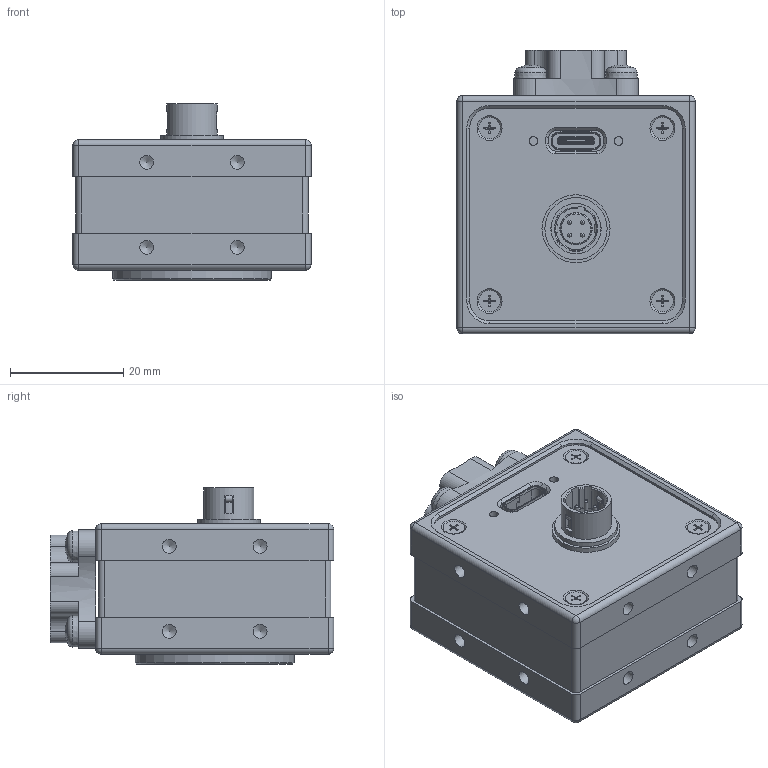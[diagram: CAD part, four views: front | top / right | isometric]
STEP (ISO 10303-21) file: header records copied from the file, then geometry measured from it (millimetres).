
FILE_DESCRIPTION(/* description */ (''),/* implementation_level */ '2;1');
FILE_NAME(/* name */ 'D:\HiDrive\1_Konstruktion\1_KUNDEN\TIS\243-17_MC42-Camera\243-17-1-00-00_MC42-USB3.1C-4PHirose\IPT und STEP Ableitungen für Kunden\243-17-11_(MC42_USB3.1C_4PHiro_CS-FP_13,3_ER-6,7).stp',/* time_stamp */ '2018-08-29T13:16:10+02:00',/* author */ ('khw'),/* organization */ (''),/* preprocessor_version */ 'ST-DEVELOPER v16.5',/* originating_system */ 'Autodesk Inventor 2017',/* authorisation */ '');
FILE_SCHEMA (('AUTOMOTIVE_DESIGN { 1 0 10303 214 3 1 1 }'));
Length unit declared in the file: millimetre
Products named in the file (4): 243-17-11_(MC42_USB3.1C_4PHiro_CS-FP_13,3_ER-6,7); 243-17-11_(MC42_USB3.1C_4PHiro_CS-FP_13,3_ER-6,7)_1; 154-13-1-00-03_Tripod Adapter; ISO 7045 - M3 x 6 - 4.8 - H
Assembly tree (6 placements, depth 2):
  243-17-11_(MC42_USB3.1C_4PHiro_CS-FP_13,3_ER-6,7)
    243-17-11_(MC42_USB3.1C_4PHiro_CS-FP_13,3_ER-6,7)_1
    154-13-1-00-03_Tripod Adapter
    ISO 7045 - M3 x 6 - 4.8 - H  x4
Bounding box: 42 x 50 x 31.05 mm (x, y, z)
Volume: 22360 mm3; surface area: 20658.4 mm2
Topology: 7 solids, 7 shells, 1587 faces, 4280 edges, 2766 vertices
Faces by surface type: plane 989, cylinder 378, cone 162, torus 42, sphere 12, bspline 4
Full cylindrical faces by diameter (mm): 0.5 x2, 0.7 x4, 0.8 x6, 1 x1, 1.1 x4, 1.567 x6, 1.755 x4, 2 x4, 2.3 x4, 2.459 x16, 2.729 x4, 3 x4, 3.4 x4, 3.8 x4, 4 x4, 4.917 x1, 4.978 x1, 5 x2, 5.6 x1, 5.7 x1, 6.55 x1, 6.6 x1, 8 x1, 8.85 x1, 11 x1, 12 x1, 20 x1, 20.2 x1, 21.9 x1, 22 x1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
Entity records: 49246 total; most frequent: CARTESIAN_POINT 10446, DIRECTION 7682, ORIENTED_EDGE 7650, EDGE_CURVE 3825, LINE 2712, VECTOR 2712, VERTEX_POINT 2551, AXIS2_PLACEMENT_3D 2485
